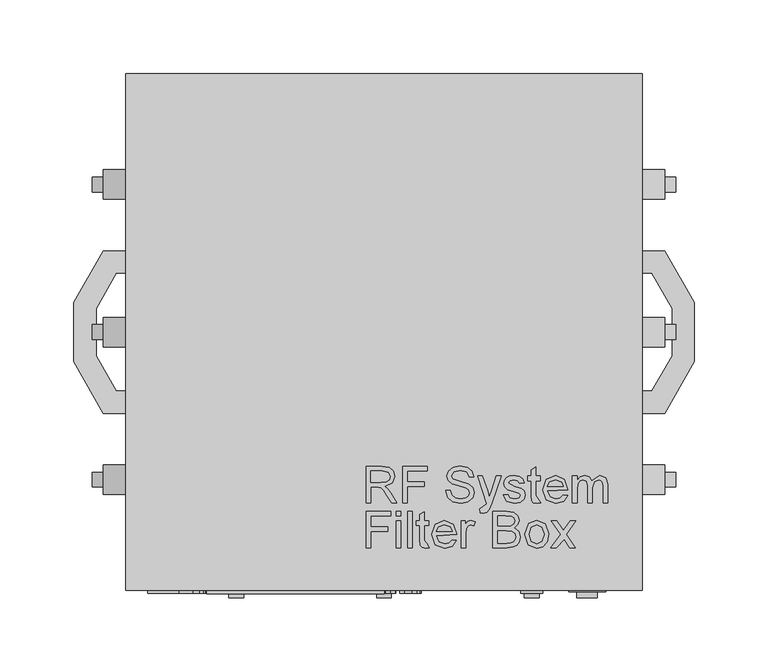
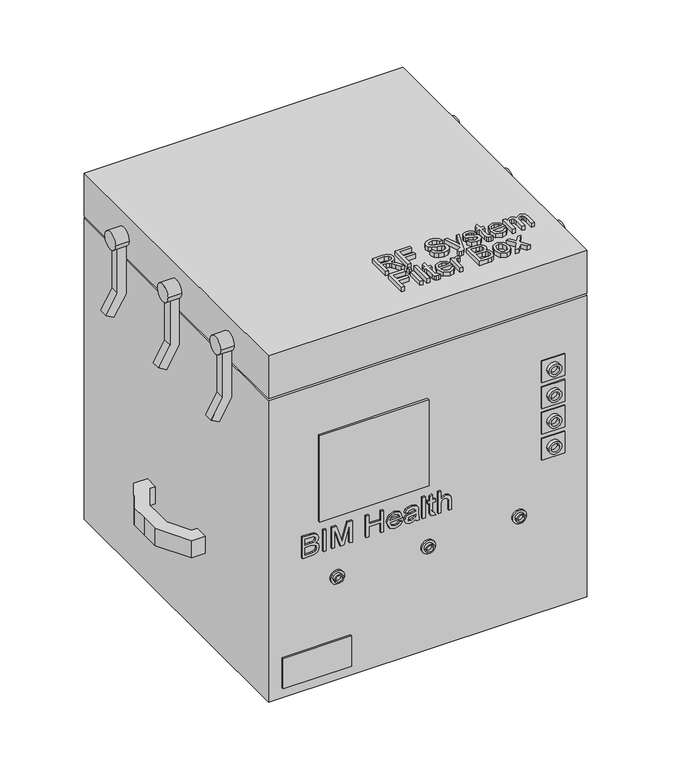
"""IFC4 building model written with IfcOpenShell, lengths in millimetres: furniture geometry, BIMHealth-RF_System_Filter_Box-LOD2A-v1 : BIMHealth-RF_System_Filter_Box-LOD2A-v1."""

from ifc_helpers import new_model, si_unit, point, frame, frame_2d, origin, origin_with_axes, place, context, project, spatial, polyline, circle_curve, trimmed, segment, composite_curve, outline, extrude, source, transform, mapped, element, save


def furniture_3b1ecb9b(model_context):
    return source(origin(), model_context, "Body", "SweptSolid", [
        extrude(outline(polyline([(-11.9955585, -115.7054629), (-11.9955585, -91.0900783), (-1.3885874, -91.0900783), (3.5362924, -91.7541408), (6.2286001, -94.1039004), (7.2352107, -97.8268572), (5.5675424, -102.2619533), (0.4142972, -104.5516168), (2.1630953, -105.8677225), (4.6570857, -109.0347899), (8.761653, -115.7054629), (5.1859318, -115.7054629), (1.9828068, -110.6032995), (-0.3308951, -107.2258956), (-1.956496, -105.6303427), (-5.2046932, -104.9362322), (-8.9186355, -104.9362322), (-8.9186355, -115.7054629), (-11.9955585, -115.7054629)]), holes=[polyline([(-8.9186355, -101.8593091), (-2.0316162, -101.8593091), (1.481004, -101.423612), (3.4761963, -100.0293812), (4.1582876, -97.9410399), (2.8572059, -95.2307033), (-1.2563759, -94.1670014), (-8.9186355, -94.1670014), (-8.9186355, -101.8593091)])]), frame((0.0, 0.0, 402.0), z_axis=(0.0, 0.0, 1.0), x_axis=(1.0, 0.0, 0.0)), (0.0, 0.0, 1.0), 5.0),
        extrude(outline(polyline([(12.6198261, -115.7054629), (12.6198261, -91.0900783), (29.1582876, -91.0900783), (29.1582876, -94.1670014), (15.6967491, -94.1670014), (15.6967491, -101.4746937), (27.2352107, -101.4746937), (27.2352107, -104.5516168), (15.6967491, -104.5516168), (15.6967491, -115.7054629), (12.6198261, -115.7054629)])), frame((0.0, 0.0, 402.0), z_axis=(0.0, 0.0, 1.0), x_axis=(1.0, 0.0, 0.0)), (0.0, 0.0, 1.0), 5.0),
        extrude(outline(polyline([(41.8505953, -107.2439245), (44.9275184, -107.2439245), (45.9191049, -110.3238524), (48.3409799, -112.2709677), (52.0308838, -113.0131552), (55.246028, -112.4512562), (57.3223501, -110.906785), (58.0044415, -108.8424822), (57.4936241, -106.92241), (55.402278, -105.5251745), (50.9221097, -104.3502947), (46.0993934, -102.8328668), (43.4822059, -100.5432033), (42.6198261, -97.4843091), (43.6865328, -94.001737), (46.8025184, -91.5438043), (51.3638165, -90.7054629), (56.2316049, -91.5828668), (59.4767972, -94.1609918), (60.6967491, -98.0131552), (57.6198261, -98.0131552), (55.8770376, -94.8520975), (51.4840088, -93.782386), (47.0789607, -94.8400783), (45.6967491, -97.3941649), (46.6763165, -99.5275783), (51.7003549, -101.2463283), (57.1450665, -102.7907995), (60.1228309, -105.2847899), (61.0813645, -108.7643572), (59.9786001, -112.4452466), (56.8055232, -115.1315447), (52.1510761, -116.0900783), (46.6552828, -115.0564245), (43.1787203, -111.9434437), (41.8505953, -107.2439245)])), frame((0.0, 0.0, 402.0), z_axis=(0.0, 0.0, 1.0), x_axis=(1.0, 0.0, 0.0)), (0.0, 0.0, 1.0), 5.0),
        extrude(outline(polyline([(65.3121338, -122.6285399), (64.9275184, -119.6657995), (69.6871338, -116.3845495), (63.3890568, -97.6285399), (66.6282395, -97.6285399), (70.1017972, -107.6706072), (71.3097299, -111.6850302), (72.5176626, -108.1333475), (76.0813645, -97.6285399), (79.2965088, -97.6285399), (73.0044415, -116.1381552), (71.3698261, -120.1525783), (69.5849703, -122.3220495), (67.1931434, -123.0131552), (65.3121338, -122.6285399)])), frame((0.0, 0.0, 402.0), z_axis=(0.0, 0.0, 1.0), x_axis=(1.0, 0.0, 0.0)), (0.0, 0.0, 1.0), 5.0),
        extrude(outline(polyline([(80.6967491, -110.3208475), (83.7736722, -109.9362322), (85.1979511, -112.219886), (88.4611722, -113.0131552), (91.5981915, -112.2859918), (92.6198261, -110.579261), (91.5921818, -109.1970495), (88.4251145, -108.3196456), (83.7917011, -106.814237), (81.7694655, -105.0564245), (81.0813645, -102.5744533), (81.6342491, -100.281785), (83.1426626, -98.5299822), (85.0987924, -97.6195254), (87.746028, -97.2439245), (91.4900184, -97.8478908), (93.8698261, -99.4825062), (94.9275184, -102.2439245), (91.8505953, -102.6285399), (90.6937443, -100.9308235), (87.9864126, -100.3208475), (85.0417011, -100.9037802), (84.1582876, -102.2619533), (88.3229511, -104.4915206), (92.839177, -105.9398379), (94.9365328, -107.5804629), (95.6967491, -110.2547418), (94.8043213, -113.1994533), (92.2292011, -115.3358716), (88.4191049, -116.0900783), (83.0525184, -114.6357514), (80.6967491, -110.3208475)])), frame((0.0, 0.0, 402.0), z_axis=(0.0, 0.0, 1.0), x_axis=(1.0, 0.0, 0.0)), (0.0, 0.0, 1.0), 5.0),
        extrude(outline(polyline([(104.2394174, -112.6916408), (106.0813645, -115.7956072), (103.7796818, -116.0900783), (101.2015568, -115.579261), (99.9154991, -114.2391168), (99.542903, -110.7475302), (99.542903, -100.7054629), (97.2352107, -100.7054629), (97.2352107, -97.6285399), (99.542903, -97.6285399), (99.542903, -93.235511), (102.6198261, -91.4266168), (102.6198261, -97.6285399), (105.6967491, -97.6285399), (105.6967491, -100.7054629), (102.6198261, -100.7054629), (102.6198261, -110.657386), (104.2394174, -112.6916408)])), frame((0.0, 0.0, 402.0), z_axis=(0.0, 0.0, 1.0), x_axis=(1.0, 0.0, 0.0)), (0.0, 0.0, 1.0), 5.0),
        extrude(outline(polyline([(121.4299222, -110.3208475), (124.4467491, -110.7054629), (121.6252347, -114.6778187), (116.3698261, -116.0900783), (109.9816049, -113.6531793), (107.6198261, -106.8172418), (110.0056434, -99.7559437), (116.1955472, -97.2439245), (122.2081674, -99.7499341), (124.542903, -106.7992129), (110.6967491, -107.6285399), (112.4665809, -111.6249341), (116.4299222, -113.0131552), (119.4467491, -112.3701264), (121.4299222, -110.3208475)]), holes=[polyline([(110.6967491, -104.5516168), (121.4659799, -104.5516168), (120.2340088, -101.7631552), (116.183528, -100.3208475), (112.3944655, -101.4716889), (110.6967491, -104.5516168)])]), frame((0.0, 0.0, 402.0), z_axis=(0.0, 0.0, 1.0), x_axis=(1.0, 0.0, 0.0)), (0.0, 0.0, 1.0), 5.0),
        extrude(outline(polyline([(127.6198261, -115.7054629), (127.6198261, -97.6285399), (130.6967491, -97.6285399), (130.6967491, -100.6032995), (132.8121338, -98.1664004), (135.8229511, -97.2439245), (138.9058838, -98.1844293), (140.6005953, -100.8196456), (146.0332876, -97.2439245), (150.0567251, -98.7313043), (151.4659799, -103.313636), (151.4659799, -115.7054629), (148.3890568, -115.7054629), (148.3890568, -104.6357514), (148.1036001, -102.0666408), (147.0699463, -100.8016168), (145.3121338, -100.3208475), (142.2862924, -101.5528187), (141.0813645, -105.501136), (141.0813645, -115.7054629), (138.0044415, -115.7054629), (138.0044415, -104.2932033), (137.292302, -101.3124341), (134.9575665, -100.3208475), (132.6799222, -100.9819052), (131.1654991, -102.9170014), (130.6967491, -106.5888764), (130.6967491, -115.7054629), (127.6198261, -115.7054629)])), frame((0.0, 0.0, 402.0), z_axis=(0.0, 0.0, 1.0), x_axis=(1.0, 0.0, 0.0)), (0.0, 0.0, 1.0), 5.0),
        extrude(outline(polyline([(-11.9955585, -146.0900783), (-11.9955585, -121.4746937), (4.542903, -121.4746937), (4.542903, -124.5516168), (-8.9186355, -124.5516168), (-8.9186355, -131.8593091), (2.6198261, -131.8593091), (2.6198261, -134.9362322), (-8.9186355, -134.9362322), (-8.9186355, -146.0900783), (-11.9955585, -146.0900783)])), frame((0.0, 0.0, 402.0), z_axis=(0.0, 0.0, 1.0), x_axis=(1.0, 0.0, 0.0)), (0.0, 0.0, 1.0), 5.0),
        extrude(outline(polyline([(8.3890568, -124.5516168), (8.3890568, -121.4746937), (11.4659799, -121.4746937), (11.4659799, -124.5516168), (8.3890568, -124.5516168)])), frame((0.0, 0.0, 402.0), z_axis=(0.0, 0.0, 1.0), x_axis=(1.0, 0.0, 0.0)), (0.0, 0.0, 1.0), 5.0),
        extrude(outline(polyline([(8.3890568, -146.0900783), (8.3890568, -128.0131552), (11.4659799, -128.0131552), (11.4659799, -146.0900783), (8.3890568, -146.0900783)])), frame((0.0, 0.0, 402.0), z_axis=(0.0, 0.0, 1.0), x_axis=(1.0, 0.0, 0.0)), (0.0, 0.0, 1.0), 5.0),
        extrude(outline(polyline([(16.0813645, -146.0900783), (16.0813645, -121.4746937), (19.1582876, -121.4746937), (19.1582876, -146.0900783), (16.0813645, -146.0900783)])), frame((0.0, 0.0, 402.0), z_axis=(0.0, 0.0, 1.0), x_axis=(1.0, 0.0, 0.0)), (0.0, 0.0, 1.0), 5.0),
        extrude(outline(polyline([(28.854802, -143.0762562), (30.6967491, -146.1802225), (28.3950665, -146.4746937), (25.8169415, -145.9638764), (24.5308838, -144.6237322), (24.1582876, -141.1321456), (24.1582876, -131.0900783), (21.8505953, -131.0900783), (21.8505953, -128.0131552), (24.1582876, -128.0131552), (24.1582876, -123.6201264), (27.2352107, -121.8112322), (27.2352107, -128.0131552), (30.3121338, -128.0131552), (30.3121338, -131.0900783), (27.2352107, -131.0900783), (27.2352107, -141.0420014), (28.854802, -143.0762562)])), frame((0.0, 0.0, 402.0), z_axis=(0.0, 0.0, 1.0), x_axis=(1.0, 0.0, 0.0)), (0.0, 0.0, 1.0), 5.0),
        extrude(outline(polyline([(46.0453068, -140.7054629), (49.0621338, -141.0900783), (46.2406193, -145.0624341), (40.9852107, -146.4746937), (34.5969895, -144.0377947), (32.2352107, -137.2018572), (34.621028, -130.1405591), (40.8109318, -127.6285399), (46.823552, -130.1345495), (49.1582876, -137.1838283), (35.3121338, -138.0131552), (37.0819655, -142.0095495), (41.0453068, -143.3977706), (44.0621338, -142.7547418), (46.0453068, -140.7054629)]), holes=[polyline([(35.3121338, -134.9362322), (46.0813645, -134.9362322), (44.8493934, -132.1477706), (40.7989126, -130.7054629), (37.0098501, -131.8563043), (35.3121338, -134.9362322)])]), frame((0.0, 0.0, 402.0), z_axis=(0.0, 0.0, 1.0), x_axis=(1.0, 0.0, 0.0)), (0.0, 0.0, 1.0), 5.0),
        extrude(outline(polyline([(52.2352107, -146.0900783), (52.2352107, -128.0131552), (54.9275184, -128.0131552), (54.9275184, -130.6874341), (56.8385761, -128.2234918), (58.761653, -127.6285399), (61.8505953, -128.5780591), (60.8229511, -131.3364725), (58.6594895, -130.7054629), (56.9197059, -131.3124341), (55.8109318, -132.9951264), (55.3121338, -136.5888764), (55.3121338, -146.0900783), (52.2352107, -146.0900783)])), frame((0.0, 0.0, 402.0), z_axis=(0.0, 0.0, 1.0), x_axis=(1.0, 0.0, 0.0)), (0.0, 0.0, 1.0), 5.0),
        extrude(outline(polyline([(73.7736722, -146.0900783), (73.7736722, -121.4746937), (83.1667011, -121.4746937), (87.7670616, -122.1988524), (90.4834078, -124.4254149), (91.4659799, -127.5744533), (90.6396578, -130.4500543), (88.1426626, -132.6285399), (91.1745136, -134.9242129), (92.2352107, -138.7523379), (91.511052, -142.0606312), (89.7171818, -144.4164004), (87.0398982, -145.6664004), (83.0945857, -146.0900783), (73.7736722, -146.0900783)]), holes=[polyline([(76.8505953, -131.4746937), (82.4695857, -131.4746937), (85.7508357, -131.2102706), (87.7249943, -130.0714485), (88.3890568, -128.0672418), (87.7700665, -126.0600302), (85.9972299, -124.8731312), (82.042903, -124.5516168), (76.8505953, -124.5516168), (76.8505953, -131.4746937)]), polyline([(76.8505953, -143.0131552), (83.1606915, -143.0131552), (85.4443453, -142.8929629), (87.3764366, -142.2228908), (88.6564847, -140.8557033), (89.1582876, -138.782386), (88.5693453, -136.3905591), (86.6612924, -134.9632754), (82.8602107, -134.5516168), (76.8505953, -134.5516168), (76.8505953, -143.0131552)])]), frame((0.0, 0.0, 402.0), z_axis=(0.0, 0.0, 1.0), x_axis=(1.0, 0.0, 0.0)), (0.0, 0.0, 1.0), 5.0),
        extrude(outline(polyline([(95.3121338, -137.0516168), (97.9743934, -129.6297418), (103.3950665, -127.6285399), (109.2093693, -130.0654389), (111.4659799, -136.7992129), (110.4683838, -142.2739725), (107.5627347, -145.3719293), (103.3950665, -146.4746937), (97.5447059, -144.0468091), (95.3121338, -137.0516168)]), holes=[polyline([(98.3890568, -137.0456072), (99.8133357, -141.814237), (103.3950665, -143.3977706), (106.964778, -141.8052225), (108.3890568, -136.9494533), (106.9557636, -132.2889966), (103.3950665, -130.7054629), (99.8133357, -132.282987), (98.3890568, -137.0456072)])]), frame((0.0, 0.0, 402.0), z_axis=(0.0, 0.0, 1.0), x_axis=(1.0, 0.0, 0.0)), (0.0, 0.0, 1.0), 5.0),
        extrude(outline(polyline([(113.0044415, -146.0900783), (119.5789607, -136.9975302), (113.3890568, -128.0131552), (117.0789607, -128.0131552), (120.0657395, -132.3460879), (121.4659799, -134.3833475), (122.6799222, -132.7126745), (126.0813645, -128.0131552), (129.7832876, -128.0131552), (123.2808838, -137.0035399), (129.542903, -146.0900783), (125.8469895, -146.0900783), (122.0729511, -140.6213283), (116.7063645, -146.0900783), (113.0044415, -146.0900783)])), frame((0.0, 0.0, 402.0), z_axis=(0.0, 0.0, 1.0), x_axis=(1.0, 0.0, 0.0)), (0.0, 0.0, 1.0), 5.0),
        extrude(outline(polyline([(155.1844713, -138.6796418), (155.1844713, -129.3587283), (155.6081491, -125.4134158), (156.8581491, -122.7361321), (159.2139184, -120.942262), (162.5222116, -120.2181033), (166.3503366, -121.2788004), (168.6460097, -124.3106514), (170.8244953, -121.8136562), (173.7000963, -120.9873341), (176.8491347, -121.9699062), (179.0756972, -124.6862523), (179.7998559, -129.2866129), (179.7998559, -138.6796418), (155.1844713, -138.6796418)]), holes=[polyline([(169.7998559, -135.6027187), (176.7229328, -135.6027187), (176.7229328, -130.410411), (176.4014184, -126.4560841), (175.2145193, -124.6832475), (173.2073078, -124.0642571), (171.2031011, -124.7283196), (170.0642789, -126.7024783), (169.7998559, -129.9837283), (169.7998559, -135.6027187)]), polyline([(158.2613943, -135.6027187), (166.7229328, -135.6027187), (166.7229328, -129.5931033), (166.3112741, -125.7920216), (164.8839905, -123.8839687), (162.4921636, -123.2950264), (160.4188463, -123.7968293), (159.0516588, -125.0768773), (158.3815866, -127.0089687), (158.2613943, -129.2926225), (158.2613943, -135.6027187)])]), frame((0.0, -177.0, 0.0), z_axis=(0.0, 1.0, 0.0), x_axis=(0.0, 0.0, 1.0)), (0.0, 0.0, 1.0), 2.0),
        extrude(outline(polyline([(-112.5257956, -177.0), (-115.6027187, -177.0), (-115.6027187, -175.0), (-112.5257956, -175.0), (-112.5257956, -177.0)])), frame((0.0, 0.0, 155.1844713), z_axis=(0.0, 0.0, 1.0), x_axis=(1.0, 0.0, 0.0)), (0.0, 0.0, 1.0), 24.6153846),
        extrude(outline(polyline([(155.1844713, -106.3719495), (155.1844713, -103.2950264), (176.7229328, -103.2950264), (155.1844713, -97.1051225), (155.1844713, -92.9404591), (176.7229328, -86.7565648), (155.1844713, -86.7565648), (155.1844713, -83.6796418), (179.7998559, -83.6796418), (179.7998559, -88.9741129), (162.750577, -93.926036), (158.8262982, -95.0257956), (162.4500963, -96.0474302), (179.7998559, -101.0955071), (179.7998559, -106.3719495), (155.1844713, -106.3719495)])), frame((0.0, -177.0, 0.0), z_axis=(0.0, 1.0, 0.0), x_axis=(0.0, 0.0, 1.0)), (0.0, 0.0, 1.0), 2.0),
        extrude(outline(polyline([(155.1844713, -68.6796418), (155.1844713, -65.6027187), (166.7229328, -65.6027187), (166.7229328, -52.5257956), (155.1844713, -52.5257956), (155.1844713, -49.4488725), (179.7998559, -49.4488725), (179.7998559, -52.5257956), (169.7998559, -52.5257956), (169.7998559, -65.6027187), (179.7998559, -65.6027187), (179.7998559, -68.6796418), (155.1844713, -68.6796418)])), frame((0.0, -177.0, 0.0), z_axis=(0.0, 1.0, 0.0), x_axis=(0.0, 0.0, 1.0)), (0.0, 0.0, 1.0), 2.0),
        extrude(outline(polyline([(160.5690866, -31.7926225), (158.5198078, -33.7757956), (157.8767789, -36.7926225), (159.2650001, -40.7559639), (163.2613943, -42.5257956), (164.0907213, -28.6796418), (171.1400001, -31.0143773), (173.6460097, -37.0269975), (171.1339905, -43.2169014), (164.0726924, -45.6027187), (157.2367549, -43.2409398), (154.7998559, -36.8527187), (156.2121155, -31.59731), (160.1844713, -28.7757956), (160.5690866, -31.7926225)]), holes=[polyline([(166.3383174, -42.5257956), (169.4182453, -40.8280793), (170.5690866, -37.0390168), (169.1267789, -32.988536), (166.3383174, -31.7565648), (166.3383174, -42.5257956)])]), frame((0.0, -177.0, 0.0), z_axis=(0.0, 1.0, 0.0), x_axis=(0.0, 0.0, 1.0)), (0.0, 0.0, 1.0), 2.0),
        extrude(outline(polyline([(157.4921636, -14.0642571), (155.1844713, -13.2950264), (155.1844713, -10.2181033), (157.7716107, -10.8310841), (163.1171636, -10.9873341), (166.9452886, -10.9873341), (169.6375963, -11.1375745), (171.7259376, -12.0810841), (173.0991347, -14.1874543), (173.6460097, -17.9164206), (173.0270193, -21.9759158), (171.266202, -24.6562043), (168.2613943, -25.9873341), (167.8767789, -22.910411), (169.9771395, -21.426036), (170.5690866, -18.3130552), (169.6796636, -14.9116129), (166.7229328, -14.082286), (165.6652405, -19.4188245), (165.2025001, -22.0810841), (164.1928847, -24.2355312), (162.4260578, -25.7830071), (159.9921636, -26.3719495), (156.2601924, -24.8124543), (154.7998559, -20.3443052), (155.406827, -17.0480312), (157.4921636, -14.0642571)]), holes=[polyline([(163.2103126, -14.0732716), (160.3948078, -14.5690648), (158.6129568, -16.5762764), (157.8767789, -19.6892571), (158.5438463, -22.37856), (162.203702, -21.675435), (162.7025001, -19.0281995), (163.2103126, -14.0732716)])]), frame((0.0, -177.0, 0.0), z_axis=(0.0, 1.0, 0.0), x_axis=(0.0, 0.0, 1.0)), (0.0, 0.0, 1.0), 2.0),
        extrude(outline(polyline([(-3.6796418, -177.0), (-6.7565648, -177.0), (-6.7565648, -175.0), (-3.6796418, -175.0), (-3.6796418, -177.0)])), frame((0.0, 0.0, 155.1844713), z_axis=(0.0, 0.0, 1.0), x_axis=(1.0, 0.0, 0.0)), (0.0, 0.0, 1.0), 24.6153846),
        extrude(outline(polyline([(158.1982934, 6.0168727), (160.2325482, 4.3972813), (170.1844713, 4.3972813), (170.1844713, 7.4742044), (173.2613943, 7.4742044), (173.2613943, 4.3972813), (179.4633174, 4.3972813), (177.6544232, 1.3203582), (173.2613943, 1.3203582), (173.2613943, -0.9873341), (170.1844713, -0.9873341), (170.1844713, 1.3203582), (160.1424039, 1.3203582), (156.6508174, 1.6929544), (155.3106732, 2.9790121), (154.7998559, 5.5571371), (155.094327, 7.8588198), (158.1982934, 6.0168727)])), frame((0.0, -177.0, 0.0), z_axis=(0.0, 1.0, 0.0), x_axis=(0.0, 0.0, 1.0)), (0.0, 0.0, 1.0), 2.0),
        extrude(outline(polyline([(155.1844713, 10.5511275), (155.1844713, 13.6280505), (164.7878366, 13.6280505), (168.0270193, 14.1298534), (169.8839905, 15.8125457), (170.5690866, 18.3335794), (169.5534616, 21.1100217), (166.3082693, 22.089589), (155.1844713, 22.089589), (155.1844713, 25.1665121), (166.6267789, 25.1665121), (170.6712501, 24.5355025), (172.8557453, 22.4381467), (173.6460097, 18.9826179), (170.7493751, 13.6280505), (179.7998559, 13.6280505), (179.7998559, 10.5511275), (155.1844713, 10.5511275)])), frame((0.0, -177.0, 0.0), z_axis=(0.0, 1.0, 0.0), x_axis=(0.0, 0.0, 1.0)), (0.0, 0.0, 1.0), 2.0),
        extrude(outline(composite_curve([segment(trimmed(circle_curve(frame_2d((-100.0, 374.5)), 10.0), [point((-110.0, 374.5))], [point((-90.0, 374.5))], False, "CARTESIAN"), True, "CONTINUOUS"), segment(trimmed(circle_curve(frame_2d((-100.0, 374.5)), 10.0), [point((-90.0, 374.5))], [point((-110.0, 374.5))], False, "CARTESIAN"), True, "CONTINUOUS")], self_intersect=False)), frame((-190.0, 0.0, 0.0), z_axis=(1.0, 0.0, 0.0), x_axis=(0.0, 1.0, 0.0)), (0.0, 0.0, 1.0), 15.0),
        extrude(outline(polyline([(374.5, -185.0), (314.5, -185.0), (292.8493649, -197.5), (287.8493649, -188.839746), (311.8205081, -175.0), (374.5, -175.0), (374.5, -185.0)])), frame((0.0, -105.0, 0.0), z_axis=(0.0, 1.0, 0.0), x_axis=(0.0, 0.0, 1.0)), (0.0, 0.0, 1.0), 10.0),
        extrude(outline(composite_curve([segment(trimmed(circle_curve(frame_2d((100.0, 374.5)), 10.0), [point((110.0, 374.5))], [point((90.0, 374.5))], False, "CARTESIAN"), True, "CONTINUOUS"), segment(trimmed(circle_curve(frame_2d((100.0, 374.5)), 10.0), [point((90.0, 374.5))], [point((110.0, 374.5))], False, "CARTESIAN"), True, "CONTINUOUS")], self_intersect=False)), frame((-190.0, 0.0, 0.0), z_axis=(1.0, 0.0, 0.0), x_axis=(0.0, 1.0, 0.0)), (0.0, 0.0, 1.0), 15.0),
        extrude(outline(polyline([(374.5, -185.0), (314.5, -185.0), (292.8493649, -197.5), (287.8493649, -188.839746), (311.8205081, -175.0), (374.5, -175.0), (374.5, -185.0)])), frame((0.0, 95.0, 0.0), z_axis=(0.0, 1.0, 0.0), x_axis=(0.0, 0.0, 1.0)), (0.0, 0.0, 1.0), 10.0),
        extrude(outline(composite_curve([segment(trimmed(circle_curve(frame_2d((0.0, 374.5)), 10.0), [point((10.0, 374.5))], [point((-10.0, 374.5))], False, "CARTESIAN"), True, "CONTINUOUS"), segment(trimmed(circle_curve(frame_2d((0.0, 374.5)), 10.0), [point((-10.0, 374.5))], [point((10.0, 374.5))], False, "CARTESIAN"), True, "CONTINUOUS")], self_intersect=False)), frame((-190.0, 0.0, 0.0), z_axis=(1.0, 0.0, 0.0), x_axis=(0.0, 1.0, 0.0)), (0.0, 0.0, 1.0), 15.0),
        extrude(outline(polyline([(374.5, -185.0), (314.5, -185.0), (292.8493649, -197.5), (287.8493649, -188.839746), (311.8205081, -175.0), (374.5, -175.0), (374.5, -185.0)])), frame((0.0, -5.0, 0.0), z_axis=(0.0, 1.0, 0.0), x_axis=(0.0, 0.0, 1.0)), (0.0, 0.0, 1.0), 10.0),
        extrude(outline(composite_curve([segment(trimmed(circle_curve(frame_2d((-100.0, 374.5)), 10.0), [point((-110.0, 374.5))], [point((-90.0, 374.5))], False, "CARTESIAN"), True, "CONTINUOUS"), segment(trimmed(circle_curve(frame_2d((-100.0, 374.5)), 10.0), [point((-90.0, 374.5))], [point((-110.0, 374.5))], False, "CARTESIAN"), True, "CONTINUOUS")], self_intersect=False)), frame((175.0, 0.0, 0.0), z_axis=(1.0, 0.0, 0.0), x_axis=(0.0, 1.0, 0.0)), (0.0, 0.0, 1.0), 15.0),
        extrude(outline(polyline([(374.5, 185.0), (374.5, 175.0), (311.8205081, 175.0), (287.8493649, 188.839746), (292.8493649, 197.5), (314.5, 185.0), (374.5, 185.0)])), frame((0.0, -105.0, 0.0), z_axis=(0.0, 1.0, 0.0), x_axis=(0.0, 0.0, 1.0)), (0.0, 0.0, 1.0), 10.0),
        extrude(outline(composite_curve([segment(trimmed(circle_curve(frame_2d((100.0, 374.5)), 10.0), [point((110.0, 374.5))], [point((90.0, 374.5))], False, "CARTESIAN"), True, "CONTINUOUS"), segment(trimmed(circle_curve(frame_2d((100.0, 374.5)), 10.0), [point((90.0, 374.5))], [point((110.0, 374.5))], False, "CARTESIAN"), True, "CONTINUOUS")], self_intersect=False)), frame((175.0, 0.0, 0.0), z_axis=(1.0, 0.0, 0.0), x_axis=(0.0, 1.0, 0.0)), (0.0, 0.0, 1.0), 15.0),
        extrude(outline(polyline([(374.5, 185.0), (374.5, 175.0), (311.8205081, 175.0), (287.8493649, 188.839746), (292.8493649, 197.5), (314.5, 185.0), (374.5, 185.0)])), frame((0.0, 95.0, 0.0), z_axis=(0.0, 1.0, 0.0), x_axis=(0.0, 0.0, 1.0)), (0.0, 0.0, 1.0), 10.0),
        extrude(outline(composite_curve([segment(trimmed(circle_curve(frame_2d((0.0, 374.5)), 10.0), [point((10.0, 374.5))], [point((-10.0, 374.5))], False, "CARTESIAN"), True, "CONTINUOUS"), segment(trimmed(circle_curve(frame_2d((0.0, 374.5)), 10.0), [point((-10.0, 374.5))], [point((10.0, 374.5))], False, "CARTESIAN"), True, "CONTINUOUS")], self_intersect=False)), frame((175.0, 0.0, 0.0), z_axis=(1.0, 0.0, 0.0), x_axis=(0.0, 1.0, 0.0)), (0.0, 0.0, 1.0), 15.0),
        extrude(outline(polyline([(374.5, 185.0), (374.5, 175.0), (311.8205081, 175.0), (287.8493649, 188.839746), (292.8493649, 197.5), (314.5, 185.0), (374.5, 185.0)])), frame((0.0, -5.0, 0.0), z_axis=(0.0, 1.0, 0.0), x_axis=(0.0, 0.0, 1.0)), (0.0, 0.0, 1.0), 10.0),
        extrude(outline(polyline([(-84.9507761, -177.0), (-159.9507761, -177.0), (-159.9507761, -175.0), (-84.9507761, -175.0), (-84.9507761, -177.0)])), frame((0.0, 0.0, 11.6599773), z_axis=(0.0, 0.0, 1.0), x_axis=(1.0, 0.0, 0.0)), (0.0, 0.0, 1.0), 35.0),
        extrude(outline(composite_curve([segment(trimmed(circle_curve(frame_2d((120.0, 100.0)), 5.0), [point((120.0, 105.0))], [point((120.0, 95.0))], False, "CARTESIAN"), True, "CONTINUOUS"), segment(trimmed(circle_curve(frame_2d((120.0, 100.0)), 5.0), [point((120.0, 95.0))], [point((120.0, 105.0))], False, "CARTESIAN"), True, "CONTINUOUS")], self_intersect=False), holes=[composite_curve([segment(trimmed(circle_curve(frame_2d((120.0, 100.0)), 3.5), [point((120.0, 103.5))], [point((120.0, 96.5))], True, "CARTESIAN"), True, "CONTINUOUS"), segment(trimmed(circle_curve(frame_2d((120.0, 100.0)), 3.5), [point((120.0, 96.5))], [point((120.0, 103.5))], True, "CARTESIAN"), True, "CONTINUOUS")], self_intersect=False)]), frame((0.0, -180.0, 0.0), z_axis=(0.0, 1.0, 0.0), x_axis=(0.0, 0.0, 1.0)), (0.0, 0.0, 1.0), 3.0),
        extrude(outline(composite_curve([segment(trimmed(circle_curve(frame_2d((120.0, 100.0)), 7.5), [point((120.0, 107.5))], [point((120.0, 92.5))], False, "CARTESIAN"), True, "CONTINUOUS"), segment(trimmed(circle_curve(frame_2d((120.0, 100.0)), 7.5), [point((120.0, 92.5))], [point((120.0, 107.5))], False, "CARTESIAN"), True, "CONTINUOUS")], self_intersect=False)), frame((0.0, -177.0, 0.0), z_axis=(0.0, 1.0, 0.0), x_axis=(0.0, 0.0, 1.0)), (0.0, 0.0, 1.0), 2.0),
        extrude(outline(composite_curve([segment(trimmed(circle_curve(frame_2d((120.0, -100.0)), 5.0), [point((120.0, -105.0))], [point((120.0, -95.0))], False, "CARTESIAN"), True, "CONTINUOUS"), segment(trimmed(circle_curve(frame_2d((120.0, -100.0)), 5.0), [point((120.0, -95.0))], [point((120.0, -105.0))], False, "CARTESIAN"), True, "CONTINUOUS")], self_intersect=False), holes=[composite_curve([segment(trimmed(circle_curve(frame_2d((120.0, -100.0)), 3.5), [point((120.0, -103.5))], [point((120.0, -96.5))], True, "CARTESIAN"), True, "CONTINUOUS"), segment(trimmed(circle_curve(frame_2d((120.0, -100.0)), 3.5), [point((120.0, -96.5))], [point((120.0, -103.5))], True, "CARTESIAN"), True, "CONTINUOUS")], self_intersect=False)]), frame((0.0, -180.0, 0.0), z_axis=(0.0, 1.0, 0.0), x_axis=(0.0, 0.0, 1.0)), (0.0, 0.0, 1.0), 3.0),
        extrude(outline(composite_curve([segment(trimmed(circle_curve(frame_2d((120.0, -100.0)), 7.5), [point((120.0, -107.5))], [point((120.0, -92.5))], False, "CARTESIAN"), True, "CONTINUOUS"), segment(trimmed(circle_curve(frame_2d((120.0, -100.0)), 7.5), [point((120.0, -92.5))], [point((120.0, -107.5))], False, "CARTESIAN"), True, "CONTINUOUS")], self_intersect=False)), frame((0.0, -177.0, 0.0), z_axis=(0.0, 1.0, 0.0), x_axis=(0.0, 0.0, 1.0)), (0.0, 0.0, 1.0), 2.0),
        extrude(outline(composite_curve([segment(trimmed(circle_curve(frame_2d((120.0, 0.0)), 5.0), [point((120.0, -5.0))], [point((120.0, 5.0))], False, "CARTESIAN"), True, "CONTINUOUS"), segment(trimmed(circle_curve(frame_2d((120.0, 0.0)), 5.0), [point((120.0, 5.0))], [point((120.0, -5.0))], False, "CARTESIAN"), True, "CONTINUOUS")], self_intersect=False), holes=[composite_curve([segment(trimmed(circle_curve(frame_2d((120.0, 0.0)), 3.5), [point((120.0, -3.5))], [point((120.0, 3.5))], True, "CARTESIAN"), True, "CONTINUOUS"), segment(trimmed(circle_curve(frame_2d((120.0, 0.0)), 3.5), [point((120.0, 3.5))], [point((120.0, -3.5))], True, "CARTESIAN"), True, "CONTINUOUS")], self_intersect=False)]), frame((0.0, -180.0, 0.0), z_axis=(0.0, 1.0, 0.0), x_axis=(0.0, 0.0, 1.0)), (0.0, 0.0, 1.0), 3.0),
        extrude(outline(composite_curve([segment(trimmed(circle_curve(frame_2d((120.0, 0.0)), 7.5), [point((120.0, -7.5))], [point((120.0, 7.5))], False, "CARTESIAN"), True, "CONTINUOUS"), segment(trimmed(circle_curve(frame_2d((120.0, 0.0)), 7.5), [point((120.0, 7.5))], [point((120.0, -7.5))], False, "CARTESIAN"), True, "CONTINUOUS")], self_intersect=False)), frame((0.0, -177.0, 0.0), z_axis=(0.0, 1.0, 0.0), x_axis=(0.0, 0.0, 1.0)), (0.0, 0.0, 1.0), 2.0),
        extrude(outline(polyline([(-210.0, 20.0), (-190.0, 55.0), (-185.0, 55.0), (-175.0, 55.0), (-175.0, 40.0), (-181.295162, 40.0), (-195.0, 16.0165334), (-195.0, 0.0), (-195.0, -16.0165334), (-181.295162, -40.0), (-175.0, -40.0), (-175.0, -55.0), (-190.0, -55.0), (-210.0, -20.0), (-210.0, 0.0), (-210.0, 20.0)])), frame((0.0, 0.0, 100.0), z_axis=(0.0, 0.0, 1.0), x_axis=(1.0, 0.0, 0.0)), (0.0, 0.0, 1.0), 20.0),
        extrude(outline(polyline([(210.0, 20.0), (210.0, 0.0), (210.0, -20.0), (190.0, -55.0), (175.0, -55.0), (175.0, -40.0), (181.295162, -40.0), (195.0, -16.0165334), (195.0, 0.0), (195.0, 16.0165334), (181.295162, 40.0), (175.0, 40.0), (175.0, 55.0), (185.0, 55.0), (190.0, 55.0), (210.0, 20.0)])), frame((0.0, 0.0, 100.0), z_axis=(0.0, 0.0, 1.0), x_axis=(1.0, 0.0, 0.0)), (0.0, 0.0, 1.0), 20.0),
        extrude(outline(composite_curve([segment(trimmed(circle_curve(frame_2d((188.9056009, 137.4842332)), 7.0), [point((188.9056009, 130.4842332))], [point((188.9056009, 144.4842332))], False, "CARTESIAN"), True, "CONTINUOUS"), segment(trimmed(circle_curve(frame_2d((188.9056009, 137.4842332)), 7.0), [point((188.9056009, 144.4842332))], [point((188.9056009, 130.4842332))], False, "CARTESIAN"), True, "CONTINUOUS")], self_intersect=False), holes=[composite_curve([segment(trimmed(circle_curve(frame_2d((188.9056009, 137.4842332)), 4.5), [point((188.9056009, 132.9842332))], [point((188.9056009, 141.9842332))], True, "CARTESIAN"), True, "CONTINUOUS"), segment(trimmed(circle_curve(frame_2d((188.9056009, 137.4842332)), 4.5), [point((188.9056009, 141.9842332))], [point((188.9056009, 132.9842332))], True, "CARTESIAN"), True, "CONTINUOUS")], self_intersect=False)]), frame((0.0, -180.0, 0.0), z_axis=(0.0, 1.0, 0.0), x_axis=(0.0, 0.0, 1.0)), (0.0, 0.0, 1.0), 4.0),
        extrude(outline(composite_curve([segment(trimmed(circle_curve(frame_2d((218.9056009, 137.4842332)), 7.0), [point((218.9056009, 130.4842332))], [point((218.9056009, 144.4842332))], False, "CARTESIAN"), True, "CONTINUOUS"), segment(trimmed(circle_curve(frame_2d((218.9056009, 137.4842332)), 7.0), [point((218.9056009, 144.4842332))], [point((218.9056009, 130.4842332))], False, "CARTESIAN"), True, "CONTINUOUS")], self_intersect=False), holes=[composite_curve([segment(trimmed(circle_curve(frame_2d((218.9056009, 137.4842332)), 4.5), [point((218.9056009, 132.9842332))], [point((218.9056009, 141.9842332))], True, "CARTESIAN"), True, "CONTINUOUS"), segment(trimmed(circle_curve(frame_2d((218.9056009, 137.4842332)), 4.5), [point((218.9056009, 141.9842332))], [point((218.9056009, 132.9842332))], True, "CARTESIAN"), True, "CONTINUOUS")], self_intersect=False)]), frame((0.0, -180.0, 0.0), z_axis=(0.0, 1.0, 0.0), x_axis=(0.0, 0.0, 1.0)), (0.0, 0.0, 1.0), 4.0),
        extrude(outline(composite_curve([segment(trimmed(circle_curve(frame_2d((248.9056009, 137.4842332)), 7.0), [point((248.9056009, 130.4842332))], [point((248.9056009, 144.4842332))], False, "CARTESIAN"), True, "CONTINUOUS"), segment(trimmed(circle_curve(frame_2d((248.9056009, 137.4842332)), 7.0), [point((248.9056009, 144.4842332))], [point((248.9056009, 130.4842332))], False, "CARTESIAN"), True, "CONTINUOUS")], self_intersect=False), holes=[composite_curve([segment(trimmed(circle_curve(frame_2d((248.9056009, 137.4842332)), 4.5), [point((248.9056009, 132.9842332))], [point((248.9056009, 141.9842332))], True, "CARTESIAN"), True, "CONTINUOUS"), segment(trimmed(circle_curve(frame_2d((248.9056009, 137.4842332)), 4.5), [point((248.9056009, 141.9842332))], [point((248.9056009, 132.9842332))], True, "CARTESIAN"), True, "CONTINUOUS")], self_intersect=False)]), frame((0.0, -180.0, 0.0), z_axis=(0.0, 1.0, 0.0), x_axis=(0.0, 0.0, 1.0)), (0.0, 0.0, 1.0), 4.0),
        extrude(outline(composite_curve([segment(trimmed(circle_curve(frame_2d((278.9056009, 137.4842332)), 7.0), [point((278.9056009, 130.4842332))], [point((278.9056009, 144.4842332))], False, "CARTESIAN"), True, "CONTINUOUS"), segment(trimmed(circle_curve(frame_2d((278.9056009, 137.4842332)), 7.0), [point((278.9056009, 144.4842332))], [point((278.9056009, 130.4842332))], False, "CARTESIAN"), True, "CONTINUOUS")], self_intersect=False), holes=[composite_curve([segment(trimmed(circle_curve(frame_2d((278.9056009, 137.4842332)), 4.5), [point((278.9056009, 132.9842332))], [point((278.9056009, 141.9842332))], True, "CARTESIAN"), True, "CONTINUOUS"), segment(trimmed(circle_curve(frame_2d((278.9056009, 137.4842332)), 4.5), [point((278.9056009, 141.9842332))], [point((278.9056009, 132.9842332))], True, "CARTESIAN"), True, "CONTINUOUS")], self_intersect=False)]), frame((0.0, -180.0, 0.0), z_axis=(0.0, 1.0, 0.0), x_axis=(0.0, 0.0, 1.0)), (0.0, 0.0, 1.0), 4.0),
        extrude(outline(polyline([(149.9842332, -176.0), (124.9842332, -176.0), (124.9842332, -175.0), (149.9842332, -175.0), (149.9842332, -176.0)])), frame((0.0, 0.0, 176.4056009), z_axis=(0.0, 0.0, 1.0), x_axis=(1.0, 0.0, 0.0)), (0.0, 0.0, 1.0), 25.0),
        extrude(outline(polyline([(149.9842332, -176.0), (124.9842332, -176.0), (124.9842332, -175.0), (149.9842332, -175.0), (149.9842332, -176.0)])), frame((0.0, 0.0, 206.4056009), z_axis=(0.0, 0.0, 1.0), x_axis=(1.0, 0.0, 0.0)), (0.0, 0.0, 1.0), 25.0),
        extrude(outline(polyline([(149.9842332, -176.0), (124.9842332, -176.0), (124.9842332, -175.0), (149.9842332, -175.0), (149.9842332, -176.0)])), frame((0.0, 0.0, 236.4056009), z_axis=(0.0, 0.0, 1.0), x_axis=(1.0, 0.0, 0.0)), (0.0, 0.0, 1.0), 25.0),
        extrude(outline(polyline([(149.9842332, -176.0), (124.9842332, -176.0), (124.9842332, -175.0), (149.9842332, -175.0), (149.9842332, -176.0)])), frame((0.0, 0.0, 266.4056009), z_axis=(0.0, 0.0, 1.0), x_axis=(1.0, 0.0, 0.0)), (0.0, 0.0, 1.0), 25.0),
        extrude(outline(polyline([(0.0, -177.5), (-120.0, -177.5), (-120.0, -175.0), (0.0, -175.0), (0.0, -177.5)])), frame((0.0, 0.0, 191.4056009), z_axis=(0.0, 0.0, 1.0), x_axis=(1.0, 0.0, 0.0)), (0.0, 0.0, 1.0), 100.0),
        extrude(outline(polyline([(175.0, 175.0), (175.0, -175.0), (-175.0, -175.0), (-175.0, 175.0), (175.0, 175.0)])), frame((0.0, 0.0, 352.0), z_axis=(0.0, 0.0, 1.0), x_axis=(1.0, 0.0, 0.0)), (0.0, 0.0, 1.0), 50.0),
        extrude(outline(polyline([(175.0, -175.0), (-175.0, -175.0), (-175.0, 175.0), (175.0, 175.0), (175.0, -175.0)])), origin_with_axes(), (0.0, 0.0, 1.0), 350.0),
    ])


if __name__ == "__main__":
    model = new_model("IFC4")
    model_context = context("Model", 3, world=origin())
    ifc_project = project(units=[si_unit("LENGTHUNIT", "METRE", prefix="MILLI")], contexts=[model_context])
    site = spatial("IfcSite", under=ifc_project)
    building = spatial("IfcBuilding", under=site)
    placement = place(None, origin())
    furniture_shape = furniture_3b1ecb9b(model_context)
    element("IfcFurniture", 1, ObjectType="BIMHealth-RF_System_Filter_Box-LOD2A-v1 : BIMHealth-RF_System_Filter_Box-LOD2A-v1", at=placement, inside=building, context=model_context, shape_type="MappedRepresentation", body=[
        mapped(furniture_shape, transform((0.0, 0.0, 0.0), x_axis=(1.0, 0.0, 0.0), y_axis=(0.0, 1.0, 0.0), z_axis=(0.0, 0.0, 1.0))),
    ])
    save(model, "model.ifc")
